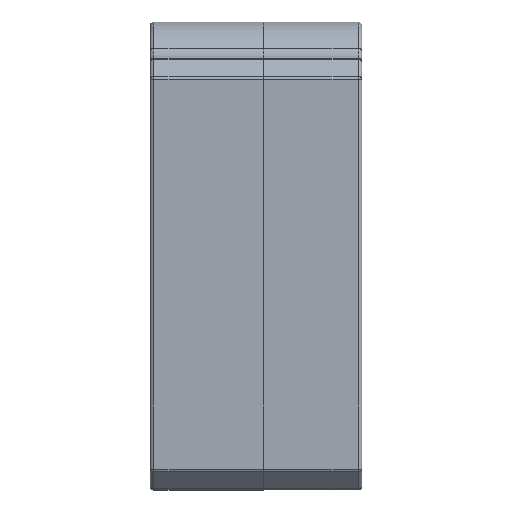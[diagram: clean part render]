
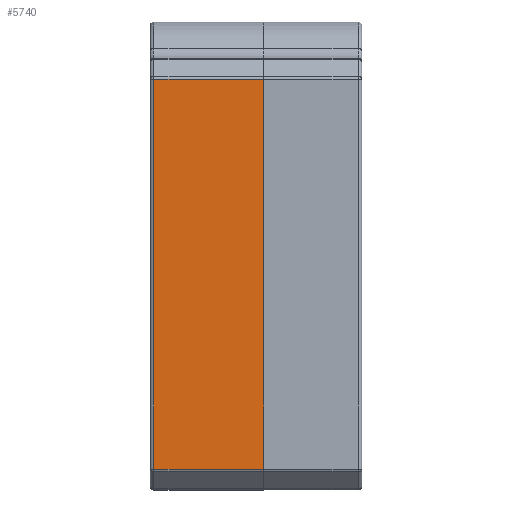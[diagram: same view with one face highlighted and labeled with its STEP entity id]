
A CAD part, left-side view. The second image highlights one B-rep face of the part: STEP entity #5740.
In plain terms, the highlighted planar face has unit normal (-1, 0, 0).
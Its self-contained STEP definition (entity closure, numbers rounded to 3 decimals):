
#413 = LINE ( 'NONE', #4197, #4176 ) ;
#721 = PLANE ( 'NONE',  #8313 ) ;
#1109 = DIRECTION ( 'NONE',  ( 0., 0., -1. ) ) ;
#1349 = DIRECTION ( 'NONE',  ( 0., 1., 0. ) ) ;
#1666 = DIRECTION ( 'NONE',  ( 0., -1., 0. ) ) ;
#2063 = DIRECTION ( 'NONE',  ( 0., 0., 1. ) ) ;
#2662 = CARTESIAN_POINT ( 'NONE',  ( -7.172, 0.483, 13.233 ) ) ;
#2685 = ORIENTED_EDGE ( 'NONE', *, *, #3212, .T. ) ;
#2768 = CARTESIAN_POINT ( 'NONE',  ( -7.172, 6.183, 13.233 ) ) ;
#2995 = VERTEX_POINT ( 'NONE', #2662 ) ;
#3127 = ORIENTED_EDGE ( 'NONE', *, *, #5504, .T. ) ;
#3212 = EDGE_CURVE ( 'NONE', #6907, #7626, #8440, .T. ) ;
#3395 = CARTESIAN_POINT ( 'NONE',  ( -7.172, -3.617, 34.55 ) ) ;
#3435 = FACE_OUTER_BOUND ( 'NONE', #8088, .T. ) ;
#3864 = CARTESIAN_POINT ( 'NONE',  ( -7.172, 6.183, 13.15 ) ) ;
#3890 = CARTESIAN_POINT ( 'NONE',  ( -7.172, 6.383, 33.467 ) ) ;
#3985 = CARTESIAN_POINT ( 'NONE',  ( -7.172, 0.483, 34.55 ) ) ;
#4176 = VECTOR ( 'NONE', #1666, 1000. ) ;
#4197 = CARTESIAN_POINT ( 'NONE',  ( -7.172, -1.617, 13.233 ) ) ;
#4629 = LINE ( 'NONE', #3985, #7591 ) ;
#5406 = CARTESIAN_POINT ( 'NONE',  ( -7.172, 0.483, 33.467 ) ) ;
#5417 = ORIENTED_EDGE ( 'NONE', *, *, #7425, .T. ) ;
#5504 = EDGE_CURVE ( 'NONE', #7626, #2995, #413, .T. ) ;
#5740 = ADVANCED_FACE ( 'NONE', ( #3435 ), #721, .F. ) ;
#6021 = VECTOR ( 'NONE', #7145, 1000. ) ;
#6907 = VERTEX_POINT ( 'NONE', #8311 ) ;
#6974 = EDGE_CURVE ( 'NONE', #8033, #2995, #4629, .T. ) ;
#7145 = DIRECTION ( 'NONE',  ( 0., 0., -1. ) ) ;
#7401 = DIRECTION ( 'NONE',  ( 1., 0., 0. ) ) ;
#7425 = EDGE_CURVE ( 'NONE', #8033, #6907, #7901, .T. ) ;
#7434 = ORIENTED_EDGE ( 'NONE', *, *, #6974, .F. ) ;
#7591 = VECTOR ( 'NONE', #1109, 1000. ) ;
#7626 = VERTEX_POINT ( 'NONE', #2768 ) ;
#7901 = LINE ( 'NONE', #3890, #8007 ) ;
#8007 = VECTOR ( 'NONE', #1349, 1000. ) ;
#8033 = VERTEX_POINT ( 'NONE', #5406 ) ;
#8088 = EDGE_LOOP ( 'NONE', ( #7434, #5417, #2685, #3127 ) ) ;
#8311 = CARTESIAN_POINT ( 'NONE',  ( -7.172, 6.183, 33.467 ) ) ;
#8313 = AXIS2_PLACEMENT_3D ( 'NONE', #3395, #7401, #2063 ) ;
#8440 = LINE ( 'NONE', #3864, #6021 ) ;
